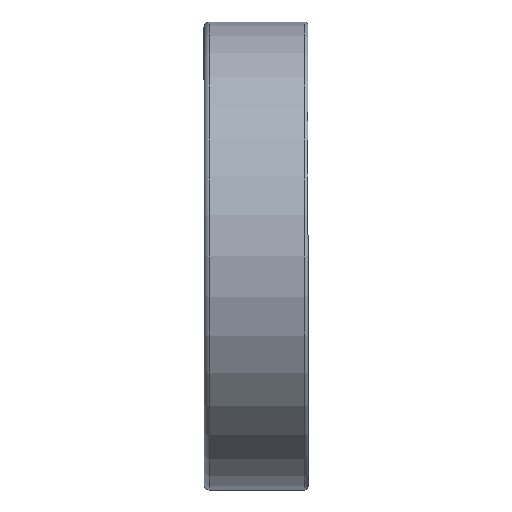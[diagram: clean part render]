
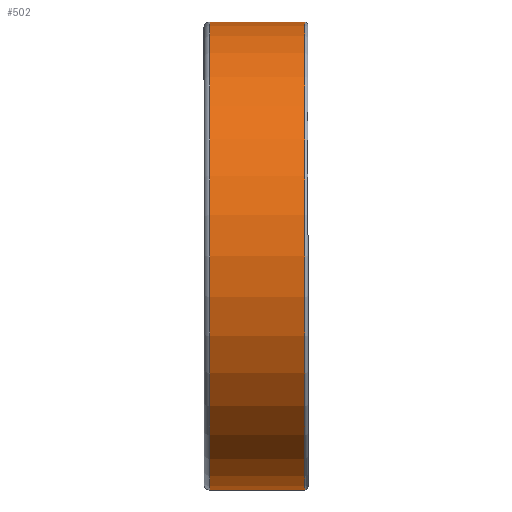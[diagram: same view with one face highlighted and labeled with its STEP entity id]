
A CAD part, front view. The second image highlights one B-rep face of the part: STEP entity #502.
In plain terms, the highlighted cylindrical face has radius 45 mm (diameter 90 mm), a full revolution.
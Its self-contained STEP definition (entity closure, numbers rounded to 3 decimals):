
#158=CYLINDRICAL_SURFACE('',#778,45.);
#246=EDGE_LOOP('',(#346));
#247=EDGE_LOOP('',(#347));
#346=ORIENTED_EDGE('',*,*,#404,.F.);
#347=ORIENTED_EDGE('',*,*,#402,.T.);
#402=EDGE_CURVE('',#711,#711,#422,.T.);
#404=EDGE_CURVE('',#713,#713,#424,.T.);
#422=CIRCLE('',#774,45.);
#424=CIRCLE('',#777,45.);
#502=ADVANCED_FACE('',(#625,#626),#158,.T.);
#625=FACE_BOUND('',#246,.T.);
#626=FACE_BOUND('',#247,.T.);
#711=VERTEX_POINT('',#1578);
#713=VERTEX_POINT('',#1583);
#774=AXIS2_PLACEMENT_3D('',#1577,#893,#894);
#777=AXIS2_PLACEMENT_3D('',#1582,#899,#900);
#778=AXIS2_PLACEMENT_3D('',#1584,#901,#902);
#893=DIRECTION('',(1.,0.,0.));
#894=DIRECTION('',(0.,0.,-1.));
#899=DIRECTION('',(1.,0.,0.));
#900=DIRECTION('',(0.,0.,-1.));
#901=DIRECTION('',(1.,0.,0.));
#902=DIRECTION('',(0.,0.,-1.));
#1577=CARTESIAN_POINT('',(-8.9,0.,0.));
#1578=CARTESIAN_POINT('',(-8.9,0.,-45.));
#1582=CARTESIAN_POINT('',(9.4,0.,0.));
#1583=CARTESIAN_POINT('',(9.4,0.,-45.));
#1584=CARTESIAN_POINT('',(-8.9,0.,0.));
